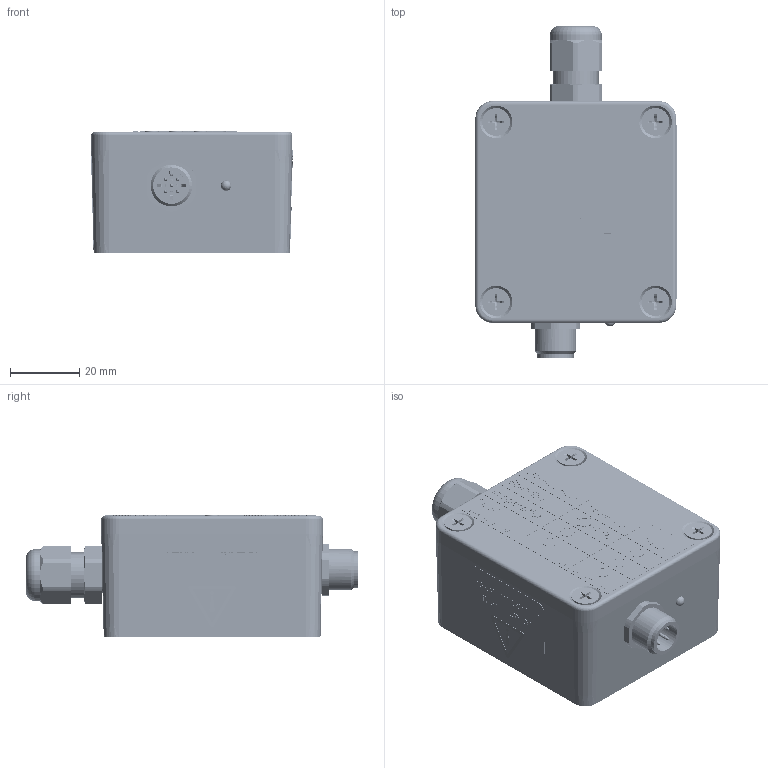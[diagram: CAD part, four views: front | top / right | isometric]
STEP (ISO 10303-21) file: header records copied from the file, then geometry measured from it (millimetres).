
FILE_DESCRIPTION(/* description */ (''),/* implementation_level */ '2;1');
FILE_NAME(/* name */ 'STATUS MODULE',/* time_stamp */ '2020-04-02T10:53:15+02:00',/* author */ (''),/* organization */ (''),/* preprocessor_version */ 'ST-DEVELOPER v16.5',/* originating_system */ 'HiCAD 2018 2302.0 Build 339',/* authorisation */ '');
FILE_SCHEMA (('AUTOMOTIVE_DESIGN { 1 0 10303 214 1 1 1 1 }'));
Products named in the file (2): Root; Part
Assembly tree (1 placements, depth 2):
  Root
    Part
Bounding box: 58.27 x 95.84 x 35.5 mm (x, y, z)
Volume: 54436 mm3; surface area: 38794.3 mm2
Topology: 98 solids, 98 shells, 32700 faces, 89236 edges, 57049 vertices
Faces by surface type: plane 31735, bspline 518, cylinder 279, cone 121, torus 39, sphere 8
Full cylindrical faces by diameter (mm): 0.747 x1, 0.986 x1, 1 x16, 1.084 x1, 1.184 x1, 1.717 x1, 2 x2, 2.25 x1, 2.3 x1, 2.5 x2, 3 x6, 3.1 x1, 3.3 x8, 3.5 x1, 3.787 x1, 3.8 x8, 4 x8, 4.4 x6, 4.5 x6, 5.7 x4, 6 x2, 6.001 x1, 6.8 x4, 8.04 x4, 8.3 x1, 10.38 x1, 10.5 x2, 12 x2, 13.2 x1, 14.5 x1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
Entity records: 1920784 total; most frequent: CARTESIAN_POINT 192795, PRESENTATION_STYLE_ASSIGNMENT 181869, OVER_RIDING_STYLED_ITEM 181771, DRAUGHTING_PRE_DEFINED_CURVE_FONT 178086, CURVE_STYLE 178086, ORIENTED_EDGE 178086, COLOUR_RGB 174452, DIRECTION 152544
